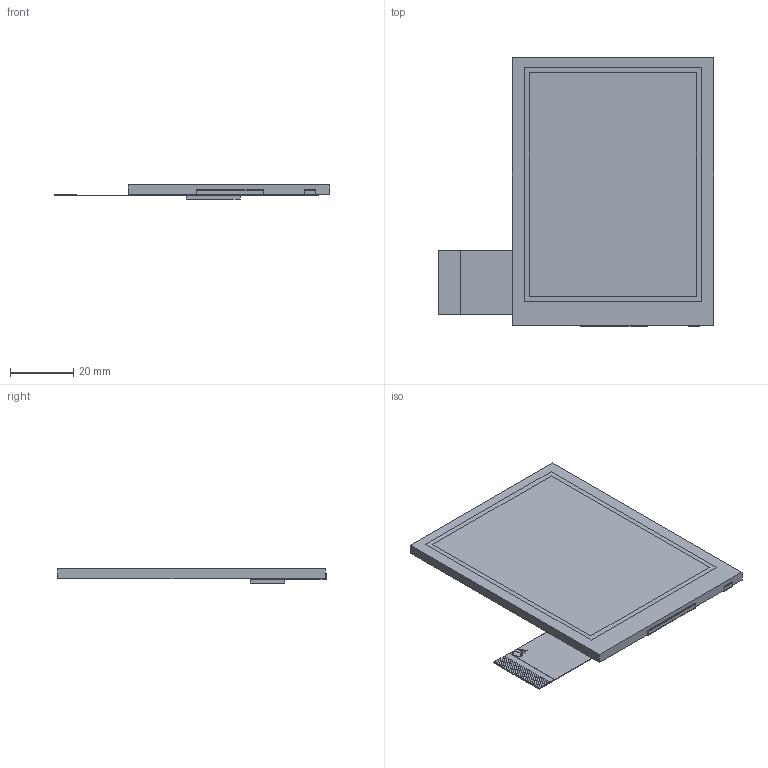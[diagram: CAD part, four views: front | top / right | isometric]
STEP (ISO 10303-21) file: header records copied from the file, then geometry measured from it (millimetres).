
FILE_DESCRIPTION (( 'STEP AP214' ), '1' );
FILE_NAME ('CFAF480640D1-035BN.STEP', '2022-11-04T21:34:57', ( '' ), ( '' ), 'SwSTEP 2.0', 'SolidWorks 2021', '' );
FILE_SCHEMA (( 'AUTOMOTIVE_DESIGN' ));
Length unit declared in the file: millimetre
Products named in the file (1): CFAF480640D1-035BN
Bounding box: 87.5 x 85.28 x 4.58 mm (x, y, z)
Volume: 17348 mm3; surface area: 15648 mm2
Topology: 2 solids, 2 shells, 230 faces, 668 edges, 448 vertices
Faces by surface type: plane 213, bspline 13, cylinder 4
Entity records: 9565 total; most frequent: CARTESIAN_POINT 4177, ORIENTED_EDGE 1336, EDGE_CURVE 668, B_SPLINE_CURVE_WITH_KNOTS 582, DIRECTION 530, VERTEX_POINT 448, EDGE_LOOP 236, ADVANCED_FACE 230
